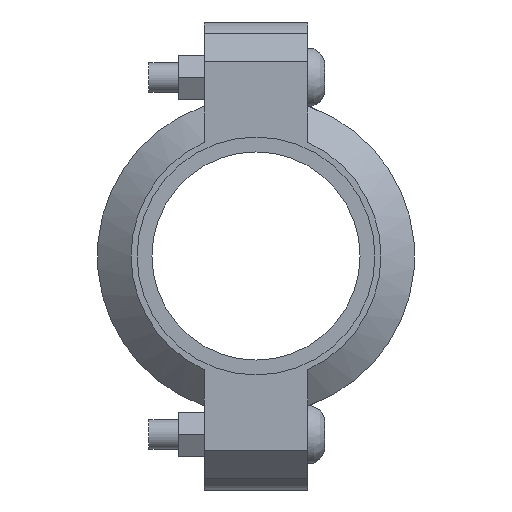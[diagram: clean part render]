
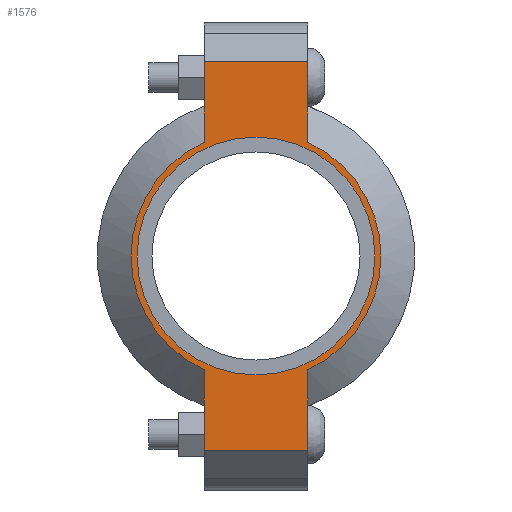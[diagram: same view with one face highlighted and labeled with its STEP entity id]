
A CAD part, left-side view. The second image highlights one B-rep face of the part: STEP entity #1576.
In plain terms, the highlighted planar face has unit normal (-1, 0, 0) as drawn and (0, 0, 1) by its records, which use the part's own axes.
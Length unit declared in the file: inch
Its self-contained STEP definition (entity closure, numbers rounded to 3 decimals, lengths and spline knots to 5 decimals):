
#182=LINE('',#2765,#277);
#195=LINE('',#2809,#290);
#200=LINE('',#2833,#295);
#207=LINE('',#2851,#302);
#214=LINE('',#2876,#309);
#215=LINE('',#2879,#310);
#277=VECTOR('',#2227,0.3937);
#290=VECTOR('',#2256,0.3937);
#295=VECTOR('',#2267,0.3937);
#302=VECTOR('',#2284,0.3937);
#309=VECTOR('',#2305,0.3937);
#310=VECTOR('',#2310,0.3937);
#362=FACE_BOUND('',#540,.T.);
#435=FACE_OUTER_BOUND('',#539,.T.);
#539=EDGE_LOOP('',(#1331,#1332,#1333,#1334,#1335,#1336,#1337,#1338));
#540=EDGE_LOOP('',(#1339));
#609=CIRCLE('',#1793,1.5);
#637=CIRCLE('',#1856,1.575);
#638=CIRCLE('',#1857,1.575);
#701=VERTEX_POINT('',#2553);
#744=VERTEX_POINT('',#2760);
#745=VERTEX_POINT('',#2764);
#761=VERTEX_POINT('',#2806);
#762=VERTEX_POINT('',#2808);
#768=VERTEX_POINT('',#2828);
#769=VERTEX_POINT('',#2832);
#774=VERTEX_POINT('',#2848);
#775=VERTEX_POINT('',#2850);
#859=EDGE_CURVE('',#701,#701,#609,.T.);
#921=EDGE_CURVE('',#745,#744,#182,.T.);
#941=EDGE_CURVE('',#762,#761,#195,.T.);
#950=EDGE_CURVE('',#769,#768,#200,.T.);
#959=EDGE_CURVE('',#775,#774,#207,.T.);
#971=EDGE_CURVE('',#769,#761,#214,.T.);
#972=EDGE_CURVE('',#768,#775,#637,.T.);
#973=EDGE_CURVE('',#745,#774,#215,.T.);
#974=EDGE_CURVE('',#744,#762,#638,.T.);
#1331=ORIENTED_EDGE('',*,*,#971,.F.);
#1332=ORIENTED_EDGE('',*,*,#950,.T.);
#1333=ORIENTED_EDGE('',*,*,#972,.T.);
#1334=ORIENTED_EDGE('',*,*,#959,.T.);
#1335=ORIENTED_EDGE('',*,*,#973,.F.);
#1336=ORIENTED_EDGE('',*,*,#921,.T.);
#1337=ORIENTED_EDGE('',*,*,#974,.T.);
#1338=ORIENTED_EDGE('',*,*,#941,.T.);
#1339=ORIENTED_EDGE('',*,*,#859,.T.);
#1417=PLANE('',#1855);
#1576=ADVANCED_FACE('',(#435,#362),#1417,.T.);
#1793=AXIS2_PLACEMENT_3D('',#2555,#2107,#2108);
#1855=AXIS2_PLACEMENT_3D('',#2877,#2306,#2307);
#1856=AXIS2_PLACEMENT_3D('',#2878,#2308,#2309);
#1857=AXIS2_PLACEMENT_3D('',#2880,#2311,#2312);
#2107=DIRECTION('center_axis',(0.,0.,-1.));
#2108=DIRECTION('ref_axis',(-1.,0.,0.));
#2227=DIRECTION('',(-1.,0.,0.));
#2256=DIRECTION('',(-1.,0.,0.));
#2267=DIRECTION('',(1.,0.,0.));
#2284=DIRECTION('',(1.,0.,0.));
#2305=DIRECTION('',(0.,1.,0.));
#2306=DIRECTION('center_axis',(0.,0.,1.));
#2307=DIRECTION('ref_axis',(1.,0.,0.));
#2308=DIRECTION('center_axis',(0.,0.,1.));
#2309=DIRECTION('ref_axis',(-1.,0.,0.));
#2310=DIRECTION('',(0.,-1.,0.));
#2311=DIRECTION('center_axis',(0.,0.,1.));
#2312=DIRECTION('ref_axis',(-1.,0.,0.));
#2553=CARTESIAN_POINT('',(1.5,0.,0.94));
#2555=CARTESIAN_POINT('Origin',(0.,0.,0.94));
#2760=CARTESIAN_POINT('',(1.43462,0.65,0.94));
#2764=CARTESIAN_POINT('',(2.45,0.65,0.94));
#2765=CARTESIAN_POINT('',(-2.95,0.65,0.94));
#2806=CARTESIAN_POINT('',(-2.45,0.65,0.94));
#2808=CARTESIAN_POINT('',(-1.43462,0.65,0.94));
#2809=CARTESIAN_POINT('',(-2.95,0.65,0.94));
#2828=CARTESIAN_POINT('',(-1.43462,-0.65,0.94));
#2832=CARTESIAN_POINT('',(-2.45,-0.65,0.94));
#2833=CARTESIAN_POINT('',(2.95,-0.65,0.94));
#2848=CARTESIAN_POINT('',(2.45,-0.65,0.94));
#2850=CARTESIAN_POINT('',(1.43462,-0.65,0.94));
#2851=CARTESIAN_POINT('',(2.95,-0.65,0.94));
#2876=CARTESIAN_POINT('',(-2.45,0.325,0.94));
#2877=CARTESIAN_POINT('Origin',(0.,0.,
0.94));
#2878=CARTESIAN_POINT('Origin',(0.,0.,0.94));
#2879=CARTESIAN_POINT('',(2.45,-0.325,0.94));
#2880=CARTESIAN_POINT('Origin',(0.,0.,0.94));
